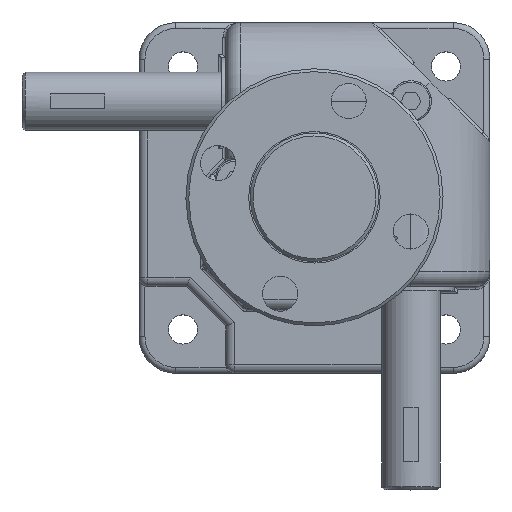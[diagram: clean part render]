
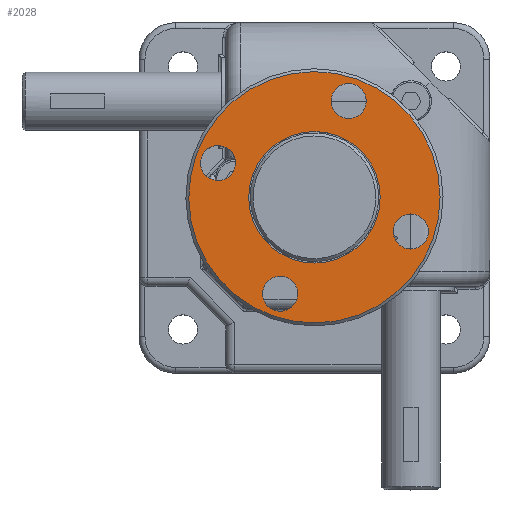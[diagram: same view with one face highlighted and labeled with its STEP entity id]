
A CAD part, top view. The second image highlights one B-rep face of the part: STEP entity #2028.
In plain terms, the highlighted planar face has unit normal (0, 0, 1).
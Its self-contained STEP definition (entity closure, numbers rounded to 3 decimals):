
#2028=ADVANCED_FACE('',(#5125,#5126,#5127,#5128,#5129,#5130),#5131,.T.);
#5125=FACE_OUTER_BOUND('',#10508,.T.);
#5126=FACE_BOUND('',#10509,.T.);
#5127=FACE_BOUND('',#10510,.T.);
#5128=FACE_BOUND('',#10511,.T.);
#5129=FACE_BOUND('',#10512,.T.);
#5130=FACE_BOUND('',#10513,.T.);
#5131=PLANE('',#10514);
#10508=EDGE_LOOP('',(#22810));
#10509=EDGE_LOOP('',(#22811));
#10510=EDGE_LOOP('',(#22812));
#10511=EDGE_LOOP('',(#22813));
#10512=EDGE_LOOP('',(#22814));
#10513=EDGE_LOOP('',(#22815));
#10514=AXIS2_PLACEMENT_3D('',#22816,#22817,#22818);
#22810=ORIENTED_EDGE('',*,*,#43008,.T.);
#22811=ORIENTED_EDGE('',*,*,#43006,.F.);
#22812=ORIENTED_EDGE('',*,*,#43009,.F.);
#22813=ORIENTED_EDGE('',*,*,#43010,.F.);
#22814=ORIENTED_EDGE('',*,*,#43011,.F.);
#22815=ORIENTED_EDGE('',*,*,#43012,.F.);
#22816=CARTESIAN_POINT('',(0.0,0.0,0.0));
#22817=DIRECTION('',(0.,0.,1.0));
#22818=DIRECTION('',(1.0,0.,0.));
#43006=EDGE_CURVE('',#52439,#52439,#52440,.T.);
#43008=EDGE_CURVE('',#52443,#52443,#52444,.T.);
#43009=EDGE_CURVE('',#52445,#52445,#52446,.T.);
#43010=EDGE_CURVE('',#52447,#52447,#52448,.T.);
#43011=EDGE_CURVE('',#52449,#52449,#52450,.T.);
#43012=EDGE_CURVE('',#52451,#52451,#52452,.T.);
#52439=VERTEX_POINT('',#70019);
#52440=CIRCLE('',#70020,22.5);
#52443=VERTEX_POINT('',#70023);
#52444=CIRCLE('',#70024,43.0);
#52445=VERTEX_POINT('',#70025);
#52446=CIRCLE('',#70026,6.0);
#52447=VERTEX_POINT('',#70027);
#52448=CIRCLE('',#70028,6.0);
#52449=VERTEX_POINT('',#70029);
#52450=CIRCLE('',#70030,6.0);
#52451=VERTEX_POINT('',#70031);
#52452=CIRCLE('',#70032,6.0);
#70019=CARTESIAN_POINT('',(22.5,0.0,0.));
#70020=AXIS2_PLACEMENT_3D('',#98308,#98309,#98310);
#70023=CARTESIAN_POINT('',(43.0,0.,0.));
#70024=AXIS2_PLACEMENT_3D('',#98314,#98315,#98316);
#70025=CARTESIAN_POINT('',(-29.0,0.0,0.));
#70026=AXIS2_PLACEMENT_3D('',#98317,#98318,#98319);
#70027=CARTESIAN_POINT('',(6.0,-35.0,0.));
#70028=AXIS2_PLACEMENT_3D('',#98320,#98321,#98322);
#70029=CARTESIAN_POINT('',(41.0,0.,0.));
#70030=AXIS2_PLACEMENT_3D('',#98323,#98324,#98325);
#70031=CARTESIAN_POINT('',(6.0,35.0,0.));
#70032=AXIS2_PLACEMENT_3D('',#98326,#98327,#98328);
#98308=CARTESIAN_POINT('',(0.0,0.0,0.));
#98309=DIRECTION('',(0.0,0.0,1.0));
#98310=DIRECTION('',(1.0,0.0,0.0));
#98314=CARTESIAN_POINT('',(0.,0.,0.0));
#98315=DIRECTION('',(0.,0.,1.0));
#98316=DIRECTION('',(1.0,0.,0.));
#98317=CARTESIAN_POINT('',(-35.0,0.0,0.));
#98318=DIRECTION('',(0.0,0.0,1.0));
#98319=DIRECTION('',(1.0,0.0,0.0));
#98320=CARTESIAN_POINT('',(0.,-35.0,0.));
#98321=DIRECTION('',(0.0,0.0,1.0));
#98322=DIRECTION('',(1.0,0.0,0.0));
#98323=CARTESIAN_POINT('',(35.0,0.,0.));
#98324=DIRECTION('',(0.0,0.0,1.0));
#98325=DIRECTION('',(1.0,0.0,0.0));
#98326=CARTESIAN_POINT('',(0.,35.0,0.));
#98327=DIRECTION('',(0.0,0.0,1.0));
#98328=DIRECTION('',(1.0,0.0,0.0));
